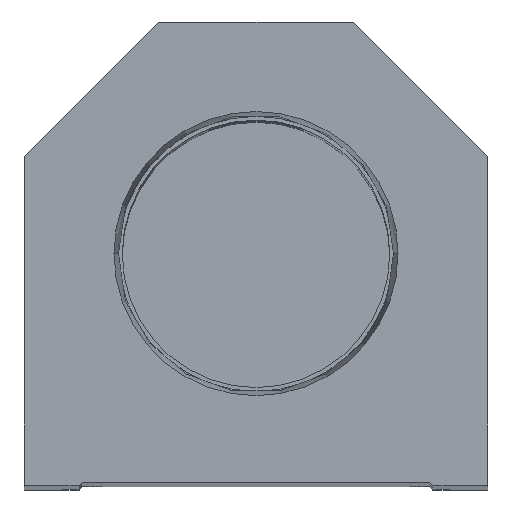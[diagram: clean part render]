
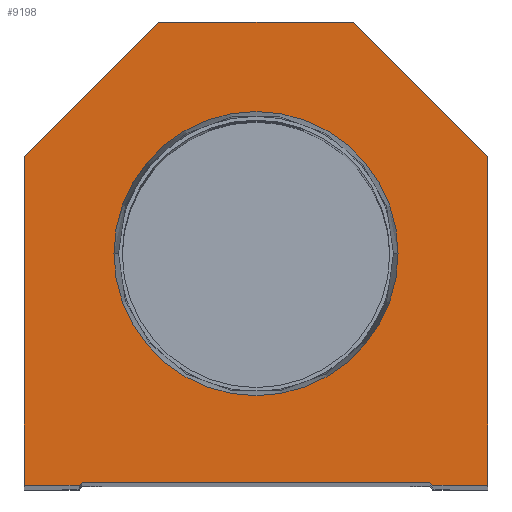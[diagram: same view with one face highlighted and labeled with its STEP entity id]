
A CAD part, top view. The second image highlights one B-rep face of the part: STEP entity #9198.
In plain terms, the highlighted planar face has unit normal (0, 0, 1).
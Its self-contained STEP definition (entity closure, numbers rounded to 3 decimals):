
#41 = VECTOR ( 'NONE', #7154, 1000. ) ;
#102 = VERTEX_POINT ( 'NONE', #12101 ) ;
#467 = VECTOR ( 'NONE', #4187, 1000. ) ;
#614 = CARTESIAN_POINT ( 'NONE',  ( 0., 38.1, 0. ) ) ;
#820 = ORIENTED_EDGE ( 'NONE', *, *, #4850, .T. ) ;
#995 = CARTESIAN_POINT ( 'NONE',  ( -16., 76.2, 0. ) ) ;
#1136 = EDGE_CURVE ( 'NONE', #16241, #9290, #13318, .T. ) ;
#1255 = VERTEX_POINT ( 'NONE', #11876 ) ;
#1381 = EDGE_CURVE ( 'NONE', #10425, #18974, #12801, .T. ) ;
#1607 = CARTESIAN_POINT ( 'NONE',  ( 38.1, 0., 0. ) ) ;
#1859 = ORIENTED_EDGE ( 'NONE', *, *, #20296, .T. ) ;
#1918 = EDGE_CURVE ( 'NONE', #6025, #16241, #8939, .T. ) ;
#2569 = AXIS2_PLACEMENT_3D ( 'NONE', #4937, #7180, #6823 ) ;
#2944 = AXIS2_PLACEMENT_3D ( 'NONE', #614, #15197, #18895 ) ;
#2962 = EDGE_CURVE ( 'NONE', #21911, #102, #12766, .T. ) ;
#3039 = LINE ( 'NONE', #1607, #14409 ) ;
#3649 = LINE ( 'NONE', #13961, #19381 ) ;
#3675 = LINE ( 'NONE', #4747, #14474 ) ;
#3735 = ORIENTED_EDGE ( 'NONE', *, *, #12972, .T. ) ;
#4012 = CARTESIAN_POINT ( 'NONE',  ( 29.1, 0., 0. ) ) ;
#4030 = LINE ( 'NONE', #9699, #17355 ) ;
#4069 = CARTESIAN_POINT ( 'NONE',  ( 16., 76.2, 0. ) ) ;
#4187 = DIRECTION ( 'NONE',  ( -1., 0., 0. ) ) ;
#4194 = ORIENTED_EDGE ( 'NONE', *, *, #15913, .T. ) ;
#4747 = CARTESIAN_POINT ( 'NONE',  ( 14.55, 14.55, 0. ) ) ;
#4850 = EDGE_CURVE ( 'NONE', #11183, #7593, #3649, .T. ) ;
#4937 = CARTESIAN_POINT ( 'NONE',  ( 0., 0., 0. ) ) ;
#5179 = VECTOR ( 'NONE', #19076, 1000. ) ;
#5682 = CARTESIAN_POINT ( 'NONE',  ( 38.1, 54.1, 0. ) ) ;
#6023 = DIRECTION ( 'NONE',  ( 1., 0., 0. ) ) ;
#6025 = VERTEX_POINT ( 'NONE', #5682 ) ;
#6155 = ORIENTED_EDGE ( 'NONE', *, *, #9926, .T. ) ;
#6236 = CARTESIAN_POINT ( 'NONE',  ( -38.1, 54.1, 0. ) ) ;
#6279 = CARTESIAN_POINT ( 'NONE',  ( -28.6, 0., 0. ) ) ;
#6529 = ORIENTED_EDGE ( 'NONE', *, *, #2962, .F. ) ;
#6823 = DIRECTION ( 'NONE',  ( 1., 0., 0. ) ) ;
#7000 = CARTESIAN_POINT ( 'NONE',  ( -38.1, 0., 0. ) ) ;
#7154 = DIRECTION ( 'NONE',  ( -0.707, 0.707, 0. ) ) ;
#7172 = ORIENTED_EDGE ( 'NONE', *, *, #1136, .T. ) ;
#7180 = DIRECTION ( 'NONE',  ( 0., 0., 1. ) ) ;
#7363 = LINE ( 'NONE', #14616, #14028 ) ;
#7593 = VERTEX_POINT ( 'NONE', #12267 ) ;
#8845 = FACE_BOUND ( 'NONE', #17106, .T. ) ;
#8939 = LINE ( 'NONE', #16182, #41 ) ;
#9198 = ADVANCED_FACE ( 'NONE', ( #8845, #21191 ), #13974, .T. ) ;
#9290 = VERTEX_POINT ( 'NONE', #995 ) ;
#9682 = DIRECTION ( 'NONE',  ( 0., 0., 1. ) ) ;
#9699 = CARTESIAN_POINT ( 'NONE',  ( -28.6, 0.5, 0. ) ) ;
#9926 = EDGE_CURVE ( 'NONE', #7593, #1255, #4030, .T. ) ;
#9936 = VECTOR ( 'NONE', #13283, 1000. ) ;
#9937 = CARTESIAN_POINT ( 'NONE',  ( 16., 76.2, 0. ) ) ;
#10185 = DIRECTION ( 'NONE',  ( 1., 0., 0. ) ) ;
#10415 = EDGE_CURVE ( 'NONE', #102, #21911, #16247, .T. ) ;
#10425 = VERTEX_POINT ( 'NONE', #4012 ) ;
#10871 = DIRECTION ( 'NONE',  ( 0.707, -0.707, 0. ) ) ;
#11183 = VERTEX_POINT ( 'NONE', #13271 ) ;
#11876 = CARTESIAN_POINT ( 'NONE',  ( 28.6, 0.5, 0. ) ) ;
#12101 = CARTESIAN_POINT ( 'NONE',  ( 23.374, 38.1, 0. ) ) ;
#12267 = CARTESIAN_POINT ( 'NONE',  ( -28.6, 0.5, 0. ) ) ;
#12759 = VERTEX_POINT ( 'NONE', #7000 ) ;
#12766 = CIRCLE ( 'NONE', #2944, 23.374 ) ;
#12801 = LINE ( 'NONE', #13167, #9936 ) ;
#12972 = EDGE_CURVE ( 'NONE', #20193, #12759, #7363, .T. ) ;
#13167 = CARTESIAN_POINT ( 'NONE',  ( 28.6, 0., 0. ) ) ;
#13240 = CARTESIAN_POINT ( 'NONE',  ( 0., 38.1, 0. ) ) ;
#13271 = CARTESIAN_POINT ( 'NONE',  ( -29.1, 0., 0. ) ) ;
#13283 = DIRECTION ( 'NONE',  ( 1., 0., 0. ) ) ;
#13318 = LINE ( 'NONE', #4069, #467 ) ;
#13603 = LINE ( 'NONE', #15851, #5179 ) ;
#13961 = CARTESIAN_POINT ( 'NONE',  ( -14.55, 14.55, 0. ) ) ;
#13974 = PLANE ( 'NONE',  #2569 ) ;
#14028 = VECTOR ( 'NONE', #18282, 1000. ) ;
#14409 = VECTOR ( 'NONE', #19183, 1000. ) ;
#14474 = VECTOR ( 'NONE', #10871, 1000. ) ;
#14616 = CARTESIAN_POINT ( 'NONE',  ( -38.1, 0., 0. ) ) ;
#15197 = DIRECTION ( 'NONE',  ( 0., 0., 1. ) ) ;
#15650 = ORIENTED_EDGE ( 'NONE', *, *, #18278, .T. ) ;
#15851 = CARTESIAN_POINT ( 'NONE',  ( -38.1, 54.1, 0. ) ) ;
#15913 = EDGE_CURVE ( 'NONE', #12759, #11183, #22793, .T. ) ;
#16156 = EDGE_LOOP ( 'NONE', ( #4194, #820, #6155, #22405, #22233, #1859, #18259, #7172, #15650, #3735 ) ) ;
#16182 = CARTESIAN_POINT ( 'NONE',  ( 38.1, 54.1, 0. ) ) ;
#16241 = VERTEX_POINT ( 'NONE', #9937 ) ;
#16247 = CIRCLE ( 'NONE', #20050, 23.374 ) ;
#17106 = EDGE_LOOP ( 'NONE', ( #23018, #6529 ) ) ;
#17355 = VECTOR ( 'NONE', #6023, 1000. ) ;
#18259 = ORIENTED_EDGE ( 'NONE', *, *, #1918, .T. ) ;
#18278 = EDGE_CURVE ( 'NONE', #9290, #20193, #13603, .T. ) ;
#18282 = DIRECTION ( 'NONE',  ( 0., -1., 0. ) ) ;
#18895 = DIRECTION ( 'NONE',  ( 1., 0., 0. ) ) ;
#18974 = VERTEX_POINT ( 'NONE', #19652 ) ;
#19076 = DIRECTION ( 'NONE',  ( -0.707, -0.707, 0. ) ) ;
#19183 = DIRECTION ( 'NONE',  ( 0., 1., 0. ) ) ;
#19381 = VECTOR ( 'NONE', #21178, 1000. ) ;
#19652 = CARTESIAN_POINT ( 'NONE',  ( 38.1, 0., 0. ) ) ;
#20050 = AXIS2_PLACEMENT_3D ( 'NONE', #13240, #9682, #20148 ) ;
#20148 = DIRECTION ( 'NONE',  ( 1., 0., 0. ) ) ;
#20193 = VERTEX_POINT ( 'NONE', #6236 ) ;
#20296 = EDGE_CURVE ( 'NONE', #18974, #6025, #3039, .T. ) ;
#20696 = CARTESIAN_POINT ( 'NONE',  ( -23.374, 38.1, 0. ) ) ;
#20991 = VECTOR ( 'NONE', #10185, 1000. ) ;
#21178 = DIRECTION ( 'NONE',  ( 0.707, 0.707, 0. ) ) ;
#21191 = FACE_OUTER_BOUND ( 'NONE', #16156, .T. ) ;
#21597 = EDGE_CURVE ( 'NONE', #1255, #10425, #3675, .T. ) ;
#21911 = VERTEX_POINT ( 'NONE', #20696 ) ;
#22233 = ORIENTED_EDGE ( 'NONE', *, *, #1381, .T. ) ;
#22405 = ORIENTED_EDGE ( 'NONE', *, *, #21597, .T. ) ;
#22793 = LINE ( 'NONE', #6279, #20991 ) ;
#23018 = ORIENTED_EDGE ( 'NONE', *, *, #10415, .F. ) ;
